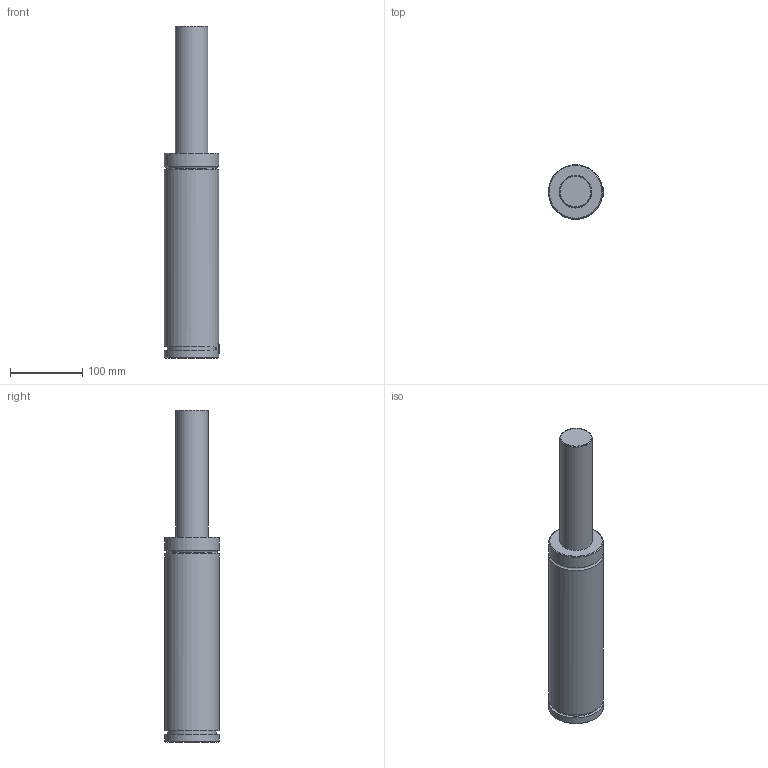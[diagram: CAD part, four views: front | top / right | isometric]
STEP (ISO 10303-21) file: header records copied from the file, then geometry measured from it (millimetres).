
FILE_DESCRIPTION(('FreeCAD Model'),'2;1');
FILE_NAME('Open CASCADE Shape Model','2024-11-12T17:03:56',('Author'),( ''),'Open CASCADE STEP processor 7.6','FreeCAD','Unknown');
FILE_SCHEMA(('AUTOMOTIVE_DESIGN { 1 0 10303 214 1 1 1 1 }'));
Length unit declared in the file: millimetre
Products named in the file (8): Unnamed; Part003; Tapon G019; Part009; Cut002; Part010; Fillet
Assembly tree (7 placements, depth 4):
  Unnamed
    Unnamed
      Part003
        Tapon G019
    Part009
      Cut002
    Part010
      Fillet
Bounding box: 76.46 x 75.2 x 460 mm (x, y, z)
Volume: 1533875.9 mm3; surface area: 107179.5 mm2
Topology: 3 solids, 3 shells, 92 faces, 187 edges, 104 vertices
Faces by surface type: cone 33, torus 29, plane 18, cylinder 12
Full cylindrical faces by diameter (mm): 16 x1, 45 x1, 75.2 x3
Entity records: 2662 total; most frequent: CARTESIAN_POINT 529, DIRECTION 486, ORIENTED_EDGE 374, AXIS2_PLACEMENT_3D 213, EDGE_CURVE 187, CIRCLE 113, VERTEX_POINT 104, FACE_BOUND 95
